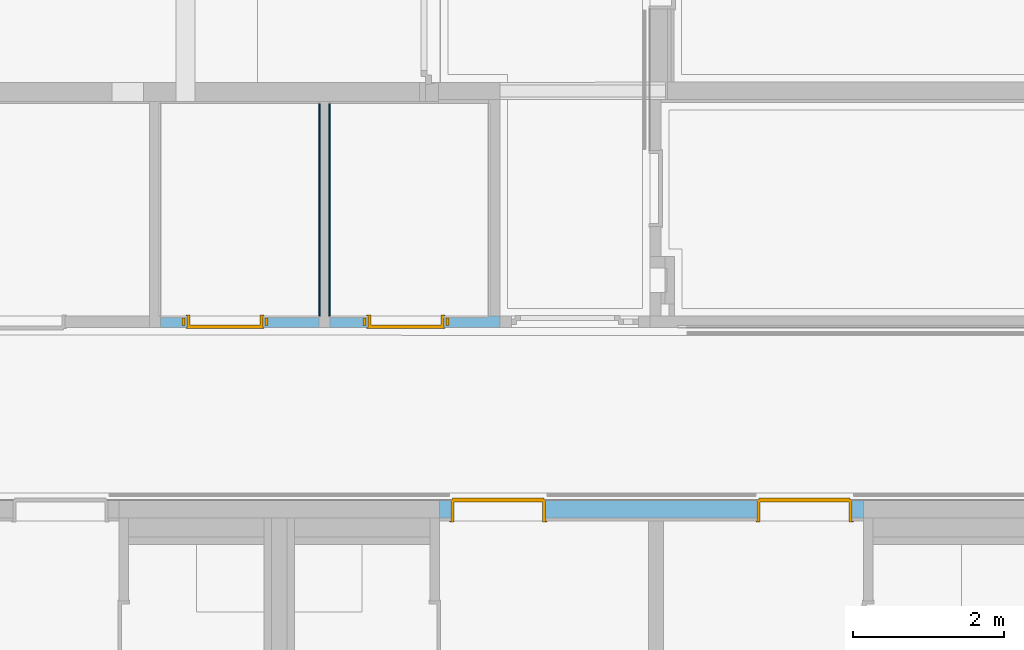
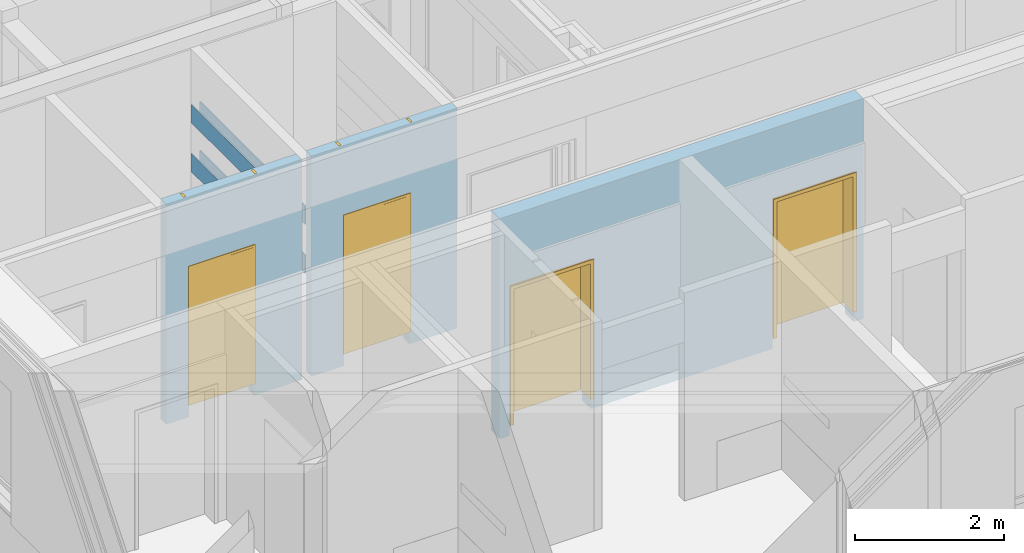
# One storey, part 69 of 207: 4 doors, 4 walls, 4 openings, plus 2 elements that do not belong to this part.
"""IFC4 building model written with IfcOpenShell, lengths in metres."""

from ifc_helpers import new_model, entity, si_unit, converted_unit, derived_unit, frame, frame_2d, origin, origin_with_axes, place, context, subcontext, project, spatial, polyline, rectangle, outline, extrude, faceted_brep, source, transform, mapped, material, type_object, element, fill, save


model = new_model("IFC4")

# Units and contexts
model_context = context("Model", 3, precision=1e-05, world=origin())
body_context = subcontext(model_context, "Body", "Model", "MODEL_VIEW")
ifc_project = project(units=[si_unit("LENGTHUNIT", "METRE"), si_unit("AREAUNIT", "SQUARE_METRE"), si_unit("VOLUMEUNIT", "CUBIC_METRE"), si_unit("MASSUNIT", "GRAM", prefix="KILO"), converted_unit("PLANEANGLEUNIT", "DEGREE", entity("IfcPlaneAngleMeasure", 0.0174532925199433), si_unit("PLANEANGLEUNIT", "RADIAN"), dimensions=[0, 0, 0, 0, 0, 0, 0]), derived_unit("THERMALTRANSMITTANCEUNIT", [(si_unit("POWERUNIT", "WATT"), 1), (si_unit("THERMODYNAMICTEMPERATUREUNIT", "KELVIN"), -1), (si_unit("LENGTHUNIT", "METRE"), -2)]), derived_unit("VOLUMETRICFLOWRATEUNIT", [(si_unit("LENGTHUNIT", "METRE"), 3), (converted_unit("TIMEUNIT", "hour", entity("IfcTimeMeasure", 3600.0), si_unit("TIMEUNIT", "SECOND"), dimensions=[0, 0, 1, 0, 0, 0, 0]), -1), (si_unit("LENGTHUNIT", "METRE"), -1)])], contexts=[model_context])

# Site, building, storey
site_placement = place(None, origin())
site = spatial("IfcSite", under=ifc_project, at=site_placement, Name="Psychiatrie Neubau Wunstorf", CompositionType="ELEMENT")
building_placement = place(site_placement, origin())
building = spatial("IfcBuilding", under=site, at=building_placement, Name="Neubau H2 Stationsgebäude", CompositionType="ELEMENT")
storey_placement = place(building_placement, frame((0.0, 0.0, -0.2)))
storey = spatial("IfcBuildingStorey", under=building, at=storey_placement, Name="H2 Ebene 0", CompositionType="ELEMENT", Elevation=-0.2)

# Walls
for number, where, name in (
    (1, (5.657, 6.77500025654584, 1.6), "WV 1.1"),
    (2, (5.525, 6.77500025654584, 1.6), "WV 1.1"),
    (3, (5.657, 6.77500025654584, 2.4), "WV 1.1"),
    (4, (5.525, 6.77500025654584, 2.4), "WV 1.1"),
):
    element("IfcWall", number, at=place(storey_placement, frame(where)), inside=storey, Name=name, context=body_context, shape_type="Brep", body=[
        faceted_brep([(0.0, 0.0, 0.0), (0.018, 0.0, 0.0), (0.018, 2.82, 0.0), (0.0, 2.82, 0.0), (0.018, 0.0, 0.3), (0.0, 0.0, 0.3), (0.0, 2.82, 0.3), (0.018, 2.82, 0.3)], [[[0, 1, 2, 3]], [[4, 5, 6, 7]], [[1, 0, 5, 4]], [[2, 1, 4, 7]], [[3, 2, 7, 6]], [[0, 3, 6, 5]]], orient=[[False], [False], [False], [False], [False], [False]]),
    ])

# Wall, openings, doors
ifc_material_1 = material(Name="WI-LB")
wall_1_placement = place(storey_placement, frame((7.925, 6.77499989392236, 0.0), z_axis=(0.0, 0.0, 1.0), x_axis=(-1.0, 0.0, 0.0)))
wall_1 = element("IfcWall", 5, at=wall_1_placement, inside=storey, material=ifc_material_1, context=body_context, shape_type="SweptSolid", body=[
    extrude(rectangle(XDim=2.25, YDim=0.15, at=frame_2d((1.125, 0.075), x_axis=(1.0, 0.0))), origin_with_axes(), (0.0, 0.0, 1.0), 3.6),
    extrude(rectangle(XDim=2.1, YDim=0.15, at=frame_2d((1.05, 0.075), x_axis=(1.0, 0.0))), frame((2.4, 0.0, 0.0), z_axis=(0.0, 0.0, 1.0), x_axis=(1.0, 0.0, 0.0)), (0.0, 0.0, 1.0), 3.6),
])
opening_1_placement = place(wall_1_placement, frame((0.74, 0.0, 0.0), z_axis=(0.0, 1.0, 0.0), x_axis=(0.0, 0.0, 1.0)))
opening_1 = element("IfcOpeningElement", 6, at=opening_1_placement, cuts=wall_1, Name="Türöffnung", ObjectType="Opening", context=body_context, shape_type="SweptSolid", body=[
    extrude(outline(polyline([(2.46, 1.01), (2.46, 0.0), (0.0, 0.0), (0.0, 1.01), (2.46, 1.01)])), origin_with_axes(), (0.0, 0.0, 1.0), 0.15),
])
opening_2_placement = place(wall_1_placement, frame((3.14, 0.0, 0.0), z_axis=(0.0, 1.0, 0.0), x_axis=(0.0, 0.0, 1.0)))
opening_2 = element("IfcOpeningElement", 7, at=opening_2_placement, cuts=wall_1, Name="Türöffnung", ObjectType="Opening", context=body_context, shape_type="SweptSolid", body=[
    extrude(outline(polyline([(2.46, 1.01), (2.46, 0.0), (0.0, 0.0), (0.0, 1.01), (2.46, 1.01)])), origin_with_axes(), (0.0, 0.0, 1.0), 0.15),
])
ifc_material_2 = material(Name="TI-1F-UZ-ZK")
door_type_1 = type_object("IfcDoorType", Name="SMT", OperationType="SINGLE_SWING_RIGHT", ParameterTakesPrecedence=False, PredefinedType="DOOR")
shared_shape_1 = source(origin_with_axes(), body_context, "Body", "Brep", [
    faceted_brep([(1.075, 0.025, 0.0), (1.075, 0.125, 0.0), (1.035, 0.125, 0.0), (1.035, 0.025, 0.0), (1.075, 0.125, 3.6), (1.075, 0.025, 3.6), (1.035, 0.025, 3.6), (1.035, 0.125, 3.6)], [[[0, 1, 2, 3]], [[4, 5, 6, 7]], [[1, 0, 5, 4]], [[2, 1, 4, 7]], [[3, 2, 7, 6]], [[0, 3, 6, 5]]], orient=[[False], [False], [False], [False], [False], [False]]),
    faceted_brep([(-0.025, 0.025, 0.0), (-0.025, 0.125, 0.0), (-0.065, 0.125, 0.0), (-0.065, 0.025, 0.0), (-0.025, 0.125, 3.6), (-0.025, 0.025, 3.6), (-0.065, 0.025, 3.6), (-0.065, 0.125, 3.6)], [[[0, 1, 2, 3]], [[4, 5, 6, 7]], [[1, 0, 5, 4]], [[2, 1, 4, 7]], [[3, 2, 7, 6]], [[0, 3, 6, 5]]], orient=[[False], [False], [False], [False], [False], [False]]),
    faceted_brep([(1.035, 0.025, 2.485), (1.035, 0.125, 2.485), (-0.025, 0.125, 2.485), (-0.025, 0.025, 2.485), (1.035, 0.125, 2.525), (1.035, 0.025, 2.525), (-0.025, 0.025, 2.525), (-0.025, 0.125, 2.525)], [[[0, 1, 2, 3]], [[4, 5, 6, 7]], [[1, 0, 5, 4]], [[2, 1, 4, 7]], [[3, 2, 7, 6]], [[0, 3, 6, 5]]], orient=[[False], [False], [False], [False], [False], [False]]),
])
shared_shape_2 = source(origin_with_axes(), body_context, "Body", "Brep", [
    faceted_brep([(1.01, -0.015, 2.46), (1.01, -0.015, 0.2), (0.97, -0.015, 0.2), (0.97, -0.015, 2.46), (1.01, 0.165, 0.2), (1.01, 0.165, 2.46), (0.97, 0.165, 2.46), (0.97, 0.165, 0.2)], [[[0, 1, 2, 3]], [[4, 5, 6, 7]], [[1, 0, 5, 4]], [[2, 1, 4, 7]], [[3, 2, 7, 6]], [[0, 3, 6, 5]]], orient=[[False], [False], [False], [False], [False], [False]]),
    faceted_brep([(1.01, -0.015, 2.475), (1.025, -0.015, 2.475), (1.025, -0.015, 0.2), (1.01, -0.015, 0.2), (1.01, 0.0, 0.2), (1.025, 0.0, 0.2), (1.025, 0.0, 2.475), (1.01, 0.0, 2.475)], [[[0, 1, 2, 3]], [[4, 5, 6, 7]], [[3, 4, 7, 0]], [[2, 5, 4, 3]], [[1, 6, 5, 2]], [[0, 7, 6, 1]]], orient=[[False], [False], [False], [False], [False], [False]]),
    faceted_brep([(1.01, 0.15, 2.475), (1.025, 0.15, 2.475), (1.025, 0.15, 0.2), (1.01, 0.15, 0.2), (1.01, 0.165, 0.2), (1.025, 0.165, 0.2), (1.025, 0.165, 2.475), (1.01, 0.165, 2.475)], [[[0, 1, 2, 3]], [[4, 5, 6, 7]], [[3, 4, 7, 0]], [[2, 5, 4, 3]], [[1, 6, 5, 2]], [[0, 7, 6, 1]]], orient=[[False], [False], [False], [False], [False], [False]]),
    faceted_brep([(0.04, -0.015, 2.46), (0.04, -0.015, 0.2), (0.0, -0.015, 0.2), (0.0, -0.015, 2.46), (0.04, 0.165, 0.2), (0.04, 0.165, 2.46), (0.0, 0.165, 2.46), (0.0, 0.165, 0.2)], [[[0, 1, 2, 3]], [[4, 5, 6, 7]], [[1, 0, 5, 4]], [[2, 1, 4, 7]], [[3, 2, 7, 6]], [[0, 3, 6, 5]]], orient=[[False], [False], [False], [False], [False], [False]]),
    faceted_brep([(0.0, -0.015, 2.475), (0.0, -0.015, 0.2), (-0.015, -0.015, 0.2), (-0.015, -0.015, 2.475), (0.0, 0.0, 0.2), (0.0, 0.0, 2.475), (-0.015, 0.0, 2.475), (-0.015, 0.0, 0.2)], [[[0, 1, 2, 3]], [[4, 5, 6, 7]], [[1, 0, 5, 4]], [[2, 1, 4, 7]], [[3, 2, 7, 6]], [[0, 3, 6, 5]]], orient=[[False], [False], [False], [False], [False], [False]]),
    faceted_brep([(0.0, 0.15, 2.475), (0.0, 0.15, 0.2), (-0.015, 0.15, 0.2), (-0.015, 0.15, 2.475), (0.0, 0.165, 0.2), (0.0, 0.165, 2.475), (-0.015, 0.165, 2.475), (-0.015, 0.165, 0.2)], [[[0, 1, 2, 3]], [[4, 5, 6, 7]], [[1, 0, 5, 4]], [[2, 1, 4, 7]], [[3, 2, 7, 6]], [[0, 3, 6, 5]]], orient=[[False], [False], [False], [False], [False], [False]]),
    faceted_brep([(0.97, -0.015, 2.46), (0.97, -0.015, 2.42), (0.04, -0.015, 2.42), (0.04, -0.015, 2.46), (0.97, 0.165, 2.42), (0.97, 0.165, 2.46), (0.04, 0.165, 2.46), (0.04, 0.165, 2.42)], [[[0, 1, 2, 3]], [[4, 5, 6, 7]], [[1, 0, 5, 4]], [[2, 1, 4, 7]], [[3, 2, 7, 6]], [[0, 3, 6, 5]]], orient=[[False], [False], [False], [False], [False], [False]]),
    faceted_brep([(1.01, -0.015, 2.475), (1.01, -0.015, 2.46), (0.0, -0.015, 2.46), (0.0, -0.015, 2.475), (1.01, 0.0, 2.46), (1.01, 0.0, 2.475), (0.0, 0.0, 2.475), (0.0, 0.0, 2.46)], [[[0, 1, 2, 3]], [[4, 5, 6, 7]], [[1, 0, 5, 4]], [[2, 1, 4, 7]], [[3, 2, 7, 6]], [[0, 3, 6, 5]]], orient=[[False], [False], [False], [False], [False], [False]]),
    faceted_brep([(1.01, 0.15, 2.475), (1.01, 0.15, 2.46), (0.0, 0.15, 2.46), (0.0, 0.15, 2.475), (1.01, 0.165, 2.46), (1.01, 0.165, 2.475), (0.0, 0.165, 2.475), (0.0, 0.165, 2.46)], [[[0, 1, 2, 3]], [[4, 5, 6, 7]], [[1, 0, 5, 4]], [[2, 1, 4, 7]], [[3, 2, 7, 6]], [[0, 3, 6, 5]]], orient=[[False], [False], [False], [False], [False], [False]]),
    faceted_brep([(0.985, 0.116, 2.435), (0.985, 0.116, 0.2), (0.025, 0.116, 0.2), (0.025, 0.116, 2.435), (0.985, 0.166, 0.2), (0.985, 0.166, 2.435), (0.025, 0.166, 2.435), (0.025, 0.166, 0.2)], [[[0, 1, 2, 3]], [[4, 5, 6, 7]], [[1, 0, 5, 4]], [[2, 1, 4, 7]], [[3, 2, 7, 6]], [[0, 3, 6, 5]]], orient=[[False], [False], [False], [False], [False], [False]]),
])
door_1_placement = place(opening_1_placement, frame((0.0, 0.0, 0.0), z_axis=(1.0, 0.0, 0.0), x_axis=(0.0, 1.0, 0.0)))
door_1 = element("IfcDoor", 8, at=door_1_placement, inside=storey, type_object=door_type_1, material=ifc_material_2, Name="SMT", OverallHeight=2.46, OverallWidth=1.01, context=body_context, shape_type="MappedRepresentation", body=[
    mapped(shared_shape_1, transform((0.0, 0.0, 0.0), x_axis=(1.0, 0.0, 0.0), y_axis=(0.0, 1.0, 0.0), z_axis=(0.0, 0.0, 1.0), scale=1.0)),
    mapped(shared_shape_2, transform((0.0, 0.0, 0.0), x_axis=(1.0, 0.0, 0.0), y_axis=(0.0, 1.0, 0.0), z_axis=(0.0, 0.0, 1.0), scale=1.0)),
])
fill(opening_1, door_1)
ifc_material_3 = material(Name="TI-1F-UZ-ZK")
door_type_2 = type_object("IfcDoorType", Name="SMT", OperationType="SINGLE_SWING_RIGHT", ParameterTakesPrecedence=False, PredefinedType="DOOR")
shared_shape_3 = source(origin_with_axes(), body_context, "Body", "Brep", [
    faceted_brep([(1.075, 0.025, 0.0), (1.075, 0.125, 0.0), (1.035, 0.125, 0.0), (1.035, 0.025, 0.0), (1.075, 0.125, 3.6), (1.075, 0.025, 3.6), (1.035, 0.025, 3.6), (1.035, 0.125, 3.6)], [[[0, 1, 2, 3]], [[4, 5, 6, 7]], [[1, 0, 5, 4]], [[2, 1, 4, 7]], [[3, 2, 7, 6]], [[0, 3, 6, 5]]], orient=[[False], [False], [False], [False], [False], [False]]),
    faceted_brep([(-0.025, 0.025, 0.0), (-0.025, 0.125, 0.0), (-0.065, 0.125, 0.0), (-0.065, 0.025, 0.0), (-0.025, 0.125, 3.6), (-0.025, 0.025, 3.6), (-0.065, 0.025, 3.6), (-0.065, 0.125, 3.6)], [[[0, 1, 2, 3]], [[4, 5, 6, 7]], [[1, 0, 5, 4]], [[2, 1, 4, 7]], [[3, 2, 7, 6]], [[0, 3, 6, 5]]], orient=[[False], [False], [False], [False], [False], [False]]),
    faceted_brep([(1.035, 0.025, 2.485), (1.035, 0.125, 2.485), (-0.025, 0.125, 2.485), (-0.025, 0.025, 2.485), (1.035, 0.125, 2.525), (1.035, 0.025, 2.525), (-0.025, 0.025, 2.525), (-0.025, 0.125, 2.525)], [[[0, 1, 2, 3]], [[4, 5, 6, 7]], [[1, 0, 5, 4]], [[2, 1, 4, 7]], [[3, 2, 7, 6]], [[0, 3, 6, 5]]], orient=[[False], [False], [False], [False], [False], [False]]),
])
shared_shape_4 = source(origin_with_axes(), body_context, "Body", "Brep", [
    faceted_brep([(1.01, -0.015, 2.46), (1.01, -0.015, 0.2), (0.97, -0.015, 0.2), (0.97, -0.015, 2.46), (1.01, 0.165, 0.2), (1.01, 0.165, 2.46), (0.97, 0.165, 2.46), (0.97, 0.165, 0.2)], [[[0, 1, 2, 3]], [[4, 5, 6, 7]], [[1, 0, 5, 4]], [[2, 1, 4, 7]], [[3, 2, 7, 6]], [[0, 3, 6, 5]]], orient=[[False], [False], [False], [False], [False], [False]]),
    faceted_brep([(1.01, -0.015, 2.475), (1.025, -0.015, 2.475), (1.025, -0.015, 0.2), (1.01, -0.015, 0.2), (1.01, 0.0, 0.2), (1.025, 0.0, 0.2), (1.025, 0.0, 2.475), (1.01, 0.0, 2.475)], [[[0, 1, 2, 3]], [[4, 5, 6, 7]], [[3, 4, 7, 0]], [[2, 5, 4, 3]], [[1, 6, 5, 2]], [[0, 7, 6, 1]]], orient=[[False], [False], [False], [False], [False], [False]]),
    faceted_brep([(1.01, 0.15, 2.475), (1.025, 0.15, 2.475), (1.025, 0.15, 0.2), (1.01, 0.15, 0.2), (1.01, 0.165, 0.2), (1.025, 0.165, 0.2), (1.025, 0.165, 2.475), (1.01, 0.165, 2.475)], [[[0, 1, 2, 3]], [[4, 5, 6, 7]], [[3, 4, 7, 0]], [[2, 5, 4, 3]], [[1, 6, 5, 2]], [[0, 7, 6, 1]]], orient=[[False], [False], [False], [False], [False], [False]]),
    faceted_brep([(0.04, -0.015, 2.46), (0.04, -0.015, 0.2), (0.0, -0.015, 0.2), (0.0, -0.015, 2.46), (0.04, 0.165, 0.2), (0.04, 0.165, 2.46), (0.0, 0.165, 2.46), (0.0, 0.165, 0.2)], [[[0, 1, 2, 3]], [[4, 5, 6, 7]], [[1, 0, 5, 4]], [[2, 1, 4, 7]], [[3, 2, 7, 6]], [[0, 3, 6, 5]]], orient=[[False], [False], [False], [False], [False], [False]]),
    faceted_brep([(0.0, -0.015, 2.475), (0.0, -0.015, 0.2), (-0.015, -0.015, 0.2), (-0.015, -0.015, 2.475), (0.0, 0.0, 0.2), (0.0, 0.0, 2.475), (-0.015, 0.0, 2.475), (-0.015, 0.0, 0.2)], [[[0, 1, 2, 3]], [[4, 5, 6, 7]], [[1, 0, 5, 4]], [[2, 1, 4, 7]], [[3, 2, 7, 6]], [[0, 3, 6, 5]]], orient=[[False], [False], [False], [False], [False], [False]]),
    faceted_brep([(0.0, 0.15, 2.475), (0.0, 0.15, 0.2), (-0.015, 0.15, 0.2), (-0.015, 0.15, 2.475), (0.0, 0.165, 0.2), (0.0, 0.165, 2.475), (-0.015, 0.165, 2.475), (-0.015, 0.165, 0.2)], [[[0, 1, 2, 3]], [[4, 5, 6, 7]], [[1, 0, 5, 4]], [[2, 1, 4, 7]], [[3, 2, 7, 6]], [[0, 3, 6, 5]]], orient=[[False], [False], [False], [False], [False], [False]]),
    faceted_brep([(0.97, -0.015, 2.46), (0.97, -0.015, 2.42), (0.04, -0.015, 2.42), (0.04, -0.015, 2.46), (0.97, 0.165, 2.42), (0.97, 0.165, 2.46), (0.04, 0.165, 2.46), (0.04, 0.165, 2.42)], [[[0, 1, 2, 3]], [[4, 5, 6, 7]], [[1, 0, 5, 4]], [[2, 1, 4, 7]], [[3, 2, 7, 6]], [[0, 3, 6, 5]]], orient=[[False], [False], [False], [False], [False], [False]]),
    faceted_brep([(1.01, -0.015, 2.475), (1.01, -0.015, 2.46), (0.0, -0.015, 2.46), (0.0, -0.015, 2.475), (1.01, 0.0, 2.46), (1.01, 0.0, 2.475), (0.0, 0.0, 2.475), (0.0, 0.0, 2.46)], [[[0, 1, 2, 3]], [[4, 5, 6, 7]], [[1, 0, 5, 4]], [[2, 1, 4, 7]], [[3, 2, 7, 6]], [[0, 3, 6, 5]]], orient=[[False], [False], [False], [False], [False], [False]]),
    faceted_brep([(1.01, 0.15, 2.475), (1.01, 0.15, 2.46), (0.0, 0.15, 2.46), (0.0, 0.15, 2.475), (1.01, 0.165, 2.46), (1.01, 0.165, 2.475), (0.0, 0.165, 2.475), (0.0, 0.165, 2.46)], [[[0, 1, 2, 3]], [[4, 5, 6, 7]], [[1, 0, 5, 4]], [[2, 1, 4, 7]], [[3, 2, 7, 6]], [[0, 3, 6, 5]]], orient=[[False], [False], [False], [False], [False], [False]]),
    faceted_brep([(0.985, 0.116, 2.435), (0.985, 0.116, 0.2), (0.025, 0.116, 0.2), (0.025, 0.116, 2.435), (0.985, 0.166, 0.2), (0.985, 0.166, 2.435), (0.025, 0.166, 2.435), (0.025, 0.166, 0.2)], [[[0, 1, 2, 3]], [[4, 5, 6, 7]], [[1, 0, 5, 4]], [[2, 1, 4, 7]], [[3, 2, 7, 6]], [[0, 3, 6, 5]]], orient=[[False], [False], [False], [False], [False], [False]]),
])
door_2_placement = place(opening_2_placement, frame((0.0, 0.0, 0.0), z_axis=(1.0, 0.0, 0.0), x_axis=(0.0, 1.0, 0.0)))
door_2 = element("IfcDoor", 9, at=door_2_placement, inside=storey, type_object=door_type_2, material=ifc_material_3, Name="SMT", OverallHeight=2.46, OverallWidth=1.01, context=body_context, shape_type="MappedRepresentation", body=[
    mapped(shared_shape_3, transform((0.0, 0.0, 0.0), x_axis=(1.0, 0.0, 0.0), y_axis=(0.0, 1.0, 0.0), z_axis=(0.0, 0.0, 1.0), scale=1.0)),
    mapped(shared_shape_4, transform((0.0, 0.0, 0.0), x_axis=(1.0, 0.0, 0.0), y_axis=(0.0, 1.0, 0.0), z_axis=(0.0, 0.0, 1.0), scale=1.0)),
])
fill(opening_2, door_2)

ifc_material_4 = material(Name="WI-HW 60")
wall_2_placement = place(storey_placement, frame((12.75, 4.33074963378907, 0.0), z_axis=(0.0, 0.0, 1.0), x_axis=(-1.0, -8.08439734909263e-16, 0.0)))
wall_2 = element("IfcWall", 10, at=wall_2_placement, inside=storey, material=ifc_material_4, context=body_context, shape_type="SweptSolid", body=[
    extrude(rectangle(XDim=5.62500000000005, YDim=0.232000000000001, at=frame_2d((2.81250000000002, 0.116), x_axis=(1.0, 0.0))), origin_with_axes(), (0.0, 0.0, 1.0), 3.6),
])
opening_3_placement = place(wall_2_placement, frame((0.150000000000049, 0.0, 0.0), z_axis=(8.575515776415e-16, 1.0, 0.0), x_axis=(0.0, 0.0, 1.0)))
opening_3 = element("IfcOpeningElement", 11, at=opening_3_placement, cuts=wall_2, Name="Türöffnung", ObjectType="Opening", context=body_context, shape_type="SweptSolid", body=[
    extrude(outline(polyline([(2.46, 1.26), (2.46, 0.0), (0.0, 0.0), (0.0, 1.26), (2.46, 1.26)])), origin_with_axes(), (0.0, 0.0, 1.0), 0.232),
])
opening_4_placement = place(wall_2_placement, frame((4.21500000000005, 0.0, 0.0), z_axis=(0.0, 1.0, 0.0), x_axis=(0.0, 0.0, 1.0)))
opening_4 = element("IfcOpeningElement", 12, at=opening_4_placement, cuts=wall_2, Name="Türöffnung", ObjectType="Opening", context=body_context, shape_type="SweptSolid", body=[
    extrude(outline(polyline([(2.46, 1.26), (2.46, 0.0), (0.0, 0.0), (0.0, 1.26), (2.46, 1.26)])), origin_with_axes(), (0.0, 0.0, 1.0), 0.232000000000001),
])
ifc_material_5 = material(Name="TI-2F-UZ-D")
door_type_3 = type_object("IfcDoorType", Name="SMT", OperationType="DOUBLE_DOOR_SINGLE_SWING", ParameterTakesPrecedence=False, PredefinedType="DOOR")
shared_shape_5 = source(origin_with_axes(), body_context, "Body", "Brep", [
    faceted_brep([(0.0, -0.0150000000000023, 2.46), (0.04, -0.0150000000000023, 2.46), (0.04, -0.0150000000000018, 0.2), (0.0, -0.0150000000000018, 0.2), (0.0, 0.286499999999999, 0.2), (0.04, 0.286499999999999, 0.2), (0.04, 0.286499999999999, 2.46), (0.0, 0.286499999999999, 2.46)], [[[0, 1, 2, 3]], [[4, 5, 6, 7]], [[3, 4, 7, 0]], [[2, 5, 4, 3]], [[1, 6, 5, 2]], [[0, 7, 6, 1]]], orient=[[False], [False], [False], [False], [False], [False]]),
    faceted_brep([(0.0, -0.0150000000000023, 2.475), (0.0, -0.0150000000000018, 0.2), (-0.015, -0.0150000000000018, 0.2), (-0.015, -0.0150000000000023, 2.475), (0.0, 0.0, 0.2), (0.0, 0.0, 2.475), (-0.015, 0.0, 2.475), (-0.015, 0.0, 0.2)], [[[0, 1, 2, 3]], [[4, 5, 6, 7]], [[1, 0, 5, 4]], [[2, 1, 4, 7]], [[3, 2, 7, 6]], [[0, 3, 6, 5]]], orient=[[False], [False], [False], [False], [False], [False]]),
    faceted_brep([(0.0, 0.271499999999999, 2.475), (0.0, 0.271499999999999, 0.2), (-0.015, 0.271499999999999, 0.2), (-0.015, 0.271499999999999, 2.475), (0.0, 0.286499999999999, 0.2), (0.0, 0.286499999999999, 2.475), (-0.015, 0.286499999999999, 2.475), (-0.015, 0.286499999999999, 0.2)], [[[0, 1, 2, 3]], [[4, 5, 6, 7]], [[1, 0, 5, 4]], [[2, 1, 4, 7]], [[3, 2, 7, 6]], [[0, 3, 6, 5]]], orient=[[False], [False], [False], [False], [False], [False]]),
    faceted_brep([(1.22, -0.0150000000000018, 2.46), (1.26, -0.0150000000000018, 2.46), (1.26, -0.0150000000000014, 0.2), (1.22, -0.0150000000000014, 0.2), (1.22, 0.2865, 0.2), (1.26, 0.2865, 0.2), (1.26, 0.2865, 2.46), (1.22, 0.2865, 2.46)], [[[0, 1, 2, 3]], [[4, 5, 6, 7]], [[3, 4, 7, 0]], [[2, 5, 4, 3]], [[1, 6, 5, 2]], [[0, 7, 6, 1]]], orient=[[False], [False], [False], [False], [False], [False]]),
    faceted_brep([(1.26, -0.0150000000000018, 2.475), (1.275, -0.0150000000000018, 2.475), (1.275, -0.0150000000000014, 0.2), (1.26, -0.0150000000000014, 0.2), (1.26, 0.0, 0.2), (1.275, 0.0, 0.2), (1.275, 0.0, 2.475), (1.26, 0.0, 2.475)], [[[0, 1, 2, 3]], [[4, 5, 6, 7]], [[3, 4, 7, 0]], [[2, 5, 4, 3]], [[1, 6, 5, 2]], [[0, 7, 6, 1]]], orient=[[False], [False], [False], [False], [False], [False]]),
    faceted_brep([(1.26, 0.271499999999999, 2.475), (1.275, 0.271499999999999, 2.475), (1.275, 0.2715, 0.2), (1.26, 0.2715, 0.2), (1.26, 0.2865, 0.2), (1.275, 0.2865, 0.2), (1.275, 0.2865, 2.475), (1.26, 0.2865, 2.475)], [[[0, 1, 2, 3]], [[4, 5, 6, 7]], [[3, 4, 7, 0]], [[2, 5, 4, 3]], [[1, 6, 5, 2]], [[0, 7, 6, 1]]], orient=[[False], [False], [False], [False], [False], [False]]),
    faceted_brep([(0.04, -0.0150000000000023, 2.46), (1.22, -0.0150000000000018, 2.46), (1.22, -0.0150000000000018, 2.42), (0.04, -0.0150000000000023, 2.42), (0.04, 0.286499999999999, 2.42), (1.22, 0.2865, 2.42), (1.22, 0.2865, 2.46), (0.04, 0.286499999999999, 2.46)], [[[0, 1, 2, 3]], [[4, 5, 6, 7]], [[3, 4, 7, 0]], [[2, 5, 4, 3]], [[1, 6, 5, 2]], [[0, 7, 6, 1]]], orient=[[False], [False], [False], [False], [False], [False]]),
    faceted_brep([(0.0, -0.0150000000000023, 2.475), (1.26, -0.0150000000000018, 2.475), (1.26, -0.0150000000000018, 2.46), (0.0, -0.0150000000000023, 2.46), (0.0, 0.0, 2.46), (1.26, 0.0, 2.46), (1.26, 0.0, 2.475), (0.0, 0.0, 2.475)], [[[0, 1, 2, 3]], [[4, 5, 6, 7]], [[3, 4, 7, 0]], [[2, 5, 4, 3]], [[1, 6, 5, 2]], [[0, 7, 6, 1]]], orient=[[False], [False], [False], [False], [False], [False]]),
    faceted_brep([(0.0, 0.271499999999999, 2.475), (1.26, 0.271499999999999, 2.475), (1.26, 0.271499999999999, 2.46), (0.0, 0.271499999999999, 2.46), (0.0, 0.286499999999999, 2.46), (1.26, 0.2865, 2.46), (1.26, 0.2865, 2.475), (0.0, 0.286499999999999, 2.475)], [[[0, 1, 2, 3]], [[4, 5, 6, 7]], [[3, 4, 7, 0]], [[2, 5, 4, 3]], [[1, 6, 5, 2]], [[0, 7, 6, 1]]], orient=[[False], [False], [False], [False], [False], [False]]),
    faceted_brep([(0.025, 0.251499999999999, 2.435), (0.925, 0.251499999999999, 2.435), (0.925, 0.2515, 0.2), (0.025, 0.251499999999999, 0.2), (0.025, 0.301499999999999, 0.2), (0.925, 0.3015, 0.2), (0.925, 0.3015, 2.435), (0.025, 0.301499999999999, 2.435)], [[[0, 1, 2, 3]], [[4, 5, 6, 7]], [[3, 4, 7, 0]], [[2, 5, 4, 3]], [[1, 6, 5, 2]], [[0, 7, 6, 1]]], orient=[[False], [False], [False], [False], [False], [False]]),
    faceted_brep([(0.926, 0.251499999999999, 2.435), (1.235, 0.251499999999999, 2.435), (1.235, 0.2515, 0.2), (0.926, 0.2515, 0.2), (0.926, 0.3015, 0.2), (1.235, 0.3015, 0.2), (1.235, 0.3015, 2.435), (0.926, 0.3015, 2.435)], [[[0, 1, 2, 3]], [[4, 5, 6, 7]], [[3, 4, 7, 0]], [[2, 5, 4, 3]], [[1, 6, 5, 2]], [[0, 7, 6, 1]]], orient=[[False], [False], [False], [False], [False], [False]]),
])
door_3_placement = place(opening_3_placement, frame((0.0, 1.26, 0.271499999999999), z_axis=(1.0, 0.0, 0.0), x_axis=(0.0, -1.0, 6.72709349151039e-16)))
door_3 = element("IfcDoor", 13, at=door_3_placement, inside=storey, type_object=door_type_3, material=ifc_material_5, Name="SMT", OverallHeight=2.46, OverallWidth=1.26, context=body_context, shape_type="MappedRepresentation", body=[
    mapped(shared_shape_5, transform((0.0, 0.0, 0.0), x_axis=(1.0, 0.0, 0.0), y_axis=(0.0, 1.0, 0.0), z_axis=(0.0, 0.0, 1.0), scale=1.0)),
])
fill(opening_3, door_3)
ifc_material_6 = material(Name="TI-2F-UZ-D")
door_type_4 = type_object("IfcDoorType", Name="SMT", OperationType="DOUBLE_DOOR_SINGLE_SWING", ParameterTakesPrecedence=False, PredefinedType="DOOR")
shared_shape_6 = source(origin_with_axes(), body_context, "Body", "Brep", [
    faceted_brep([(1.26, -0.0150000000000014, 2.46), (1.26, -0.0150000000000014, 0.2), (1.22, -0.0150000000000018, 0.2), (1.22, -0.0150000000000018, 2.46), (1.26, 0.2865, 0.2), (1.26, 0.2865, 2.46), (1.22, 0.2865, 2.46), (1.22, 0.2865, 0.2)], [[[0, 1, 2, 3]], [[4, 5, 6, 7]], [[1, 0, 5, 4]], [[2, 1, 4, 7]], [[3, 2, 7, 6]], [[0, 3, 6, 5]]], orient=[[False], [False], [False], [False], [False], [False]]),
    faceted_brep([(1.26, -0.0150000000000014, 2.475), (1.275, -0.0150000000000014, 2.475), (1.275, -0.0150000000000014, 0.2), (1.26, -0.0150000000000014, 0.2), (1.26, 0.0, 0.2), (1.275, 0.0, 0.2), (1.275, 0.0, 2.475), (1.26, 0.0, 2.475)], [[[0, 1, 2, 3]], [[4, 5, 6, 7]], [[3, 4, 7, 0]], [[2, 5, 4, 3]], [[1, 6, 5, 2]], [[0, 7, 6, 1]]], orient=[[False], [False], [False], [False], [False], [False]]),
    faceted_brep([(1.26, 0.2715, 2.475), (1.275, 0.2715, 2.475), (1.275, 0.2715, 0.2), (1.26, 0.2715, 0.2), (1.26, 0.2865, 0.2), (1.275, 0.2865, 0.2), (1.275, 0.2865, 2.475), (1.26, 0.2865, 2.475)], [[[0, 1, 2, 3]], [[4, 5, 6, 7]], [[3, 4, 7, 0]], [[2, 5, 4, 3]], [[1, 6, 5, 2]], [[0, 7, 6, 1]]], orient=[[False], [False], [False], [False], [False], [False]]),
    faceted_brep([(0.0399999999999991, -0.0150000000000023, 2.46), (0.0399999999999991, -0.0150000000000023, 0.2), (0.0, -0.0150000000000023, 0.2), (0.0, -0.0150000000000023, 2.46), (0.0399999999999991, 0.2865, 0.2), (0.0399999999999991, 0.2865, 2.46), (0.0, 0.2865, 2.46), (0.0, 0.2865, 0.2)], [[[0, 1, 2, 3]], [[4, 5, 6, 7]], [[1, 0, 5, 4]], [[2, 1, 4, 7]], [[3, 2, 7, 6]], [[0, 3, 6, 5]]], orient=[[False], [False], [False], [False], [False], [False]]),
    faceted_brep([(0.0, -0.0150000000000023, 2.475), (0.0, -0.0150000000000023, 0.2), (-0.0150000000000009, -0.0150000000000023, 0.2), (-0.0150000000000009, -0.0150000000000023, 2.475), (0.0, 0.0, 0.2), (0.0, 0.0, 2.475), (-0.0150000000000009, 0.0, 2.475), (-0.0150000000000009, 0.0, 0.2)], [[[0, 1, 2, 3]], [[4, 5, 6, 7]], [[1, 0, 5, 4]], [[2, 1, 4, 7]], [[3, 2, 7, 6]], [[0, 3, 6, 5]]], orient=[[False], [False], [False], [False], [False], [False]]),
    faceted_brep([(0.0, 0.2715, 2.475), (0.0, 0.2715, 0.2), (-0.0150000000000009, 0.2715, 0.2), (-0.0150000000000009, 0.2715, 2.475), (0.0, 0.2865, 0.2), (0.0, 0.2865, 2.475), (-0.0150000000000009, 0.2865, 2.475), (-0.0150000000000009, 0.2865, 0.2)], [[[0, 1, 2, 3]], [[4, 5, 6, 7]], [[1, 0, 5, 4]], [[2, 1, 4, 7]], [[3, 2, 7, 6]], [[0, 3, 6, 5]]], orient=[[False], [False], [False], [False], [False], [False]]),
    faceted_brep([(1.22, -0.0150000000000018, 2.46), (1.22, -0.0150000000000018, 2.42), (0.0399999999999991, -0.0150000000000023, 2.42), (0.0399999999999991, -0.0150000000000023, 2.46), (1.22, 0.2865, 2.42), (1.22, 0.2865, 2.46), (0.0399999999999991, 0.2865, 2.46), (0.0399999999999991, 0.2865, 2.42)], [[[0, 1, 2, 3]], [[4, 5, 6, 7]], [[1, 0, 5, 4]], [[2, 1, 4, 7]], [[3, 2, 7, 6]], [[0, 3, 6, 5]]], orient=[[False], [False], [False], [False], [False], [False]]),
    faceted_brep([(1.26, -0.0150000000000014, 2.475), (1.26, -0.0150000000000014, 2.46), (0.0, -0.0150000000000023, 2.46), (0.0, -0.0150000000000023, 2.475), (1.26, 0.0, 2.46), (1.26, 0.0, 2.475), (0.0, 0.0, 2.475), (0.0, 0.0, 2.46)], [[[0, 1, 2, 3]], [[4, 5, 6, 7]], [[1, 0, 5, 4]], [[2, 1, 4, 7]], [[3, 2, 7, 6]], [[0, 3, 6, 5]]], orient=[[False], [False], [False], [False], [False], [False]]),
    faceted_brep([(1.26, 0.2715, 2.475), (1.26, 0.2715, 2.46), (0.0, 0.2715, 2.46), (0.0, 0.2715, 2.475), (1.26, 0.2865, 2.46), (1.26, 0.2865, 2.475), (0.0, 0.2865, 2.475), (0.0, 0.2865, 2.46)], [[[0, 1, 2, 3]], [[4, 5, 6, 7]], [[1, 0, 5, 4]], [[2, 1, 4, 7]], [[3, 2, 7, 6]], [[0, 3, 6, 5]]], orient=[[False], [False], [False], [False], [False], [False]]),
    faceted_brep([(1.235, 0.2515, 2.435), (1.235, 0.2515, 0.2), (0.334999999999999, 0.2515, 0.2), (0.334999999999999, 0.2515, 2.435), (1.235, 0.3015, 0.2), (1.235, 0.3015, 2.435), (0.334999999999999, 0.3015, 2.435), (0.334999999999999, 0.3015, 0.2)], [[[0, 1, 2, 3]], [[4, 5, 6, 7]], [[1, 0, 5, 4]], [[2, 1, 4, 7]], [[3, 2, 7, 6]], [[0, 3, 6, 5]]], orient=[[False], [False], [False], [False], [False], [False]]),
    faceted_brep([(0.333999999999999, 0.2515, 2.435), (0.333999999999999, 0.2515, 0.2), (0.0249999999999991, 0.2515, 0.2), (0.0249999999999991, 0.2515, 2.435), (0.333999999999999, 0.3015, 0.2), (0.333999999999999, 0.3015, 2.435), (0.0249999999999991, 0.3015, 2.435), (0.0249999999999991, 0.3015, 0.2)], [[[0, 1, 2, 3]], [[4, 5, 6, 7]], [[1, 0, 5, 4]], [[2, 1, 4, 7]], [[3, 2, 7, 6]], [[0, 3, 6, 5]]], orient=[[False], [False], [False], [False], [False], [False]]),
])
door_4_placement = place(opening_4_placement, frame((0.0, 1.26, 0.271499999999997), z_axis=(1.0, 0.0, 0.0), x_axis=(0.0, -1.0, 1.53026092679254e-15)))
door_4 = element("IfcDoor", 14, at=door_4_placement, inside=storey, type_object=door_type_4, material=ifc_material_6, Name="SMT", OverallHeight=2.46, OverallWidth=1.26, context=body_context, shape_type="MappedRepresentation", body=[
    mapped(shared_shape_6, transform((0.0, 0.0, 0.0), x_axis=(1.0, 0.0, 0.0), y_axis=(0.0, 1.0, 0.0), z_axis=(0.0, 0.0, 1.0), scale=1.0)),
])
fill(opening_4, door_4)

save(model, "model.ifc")
